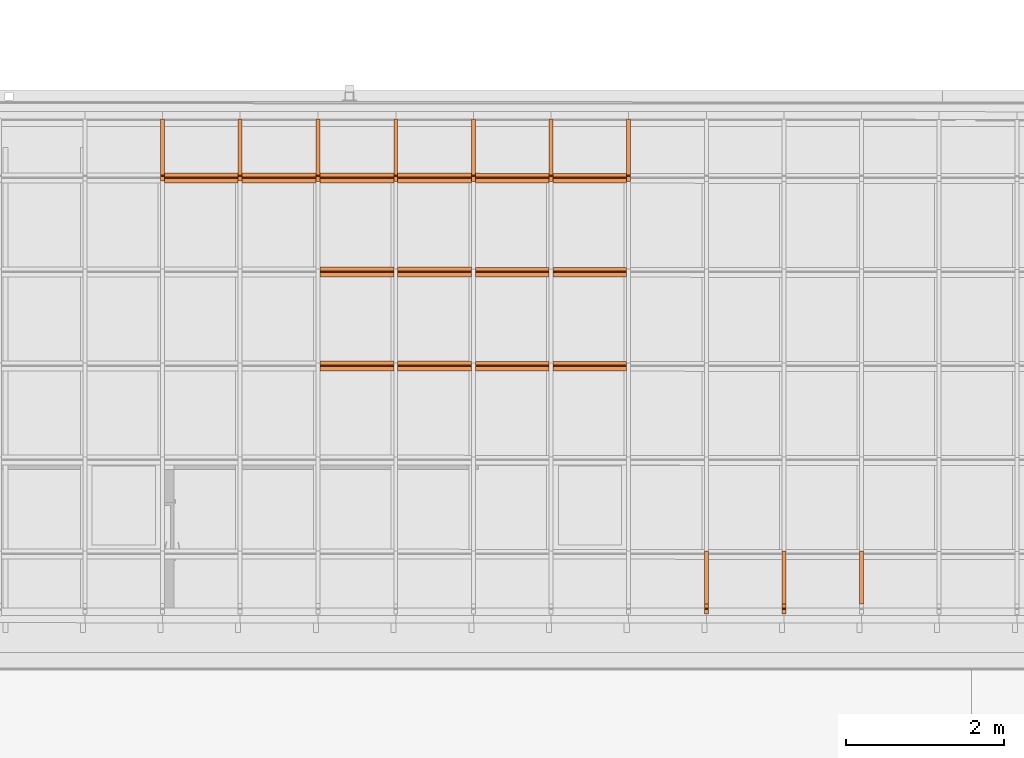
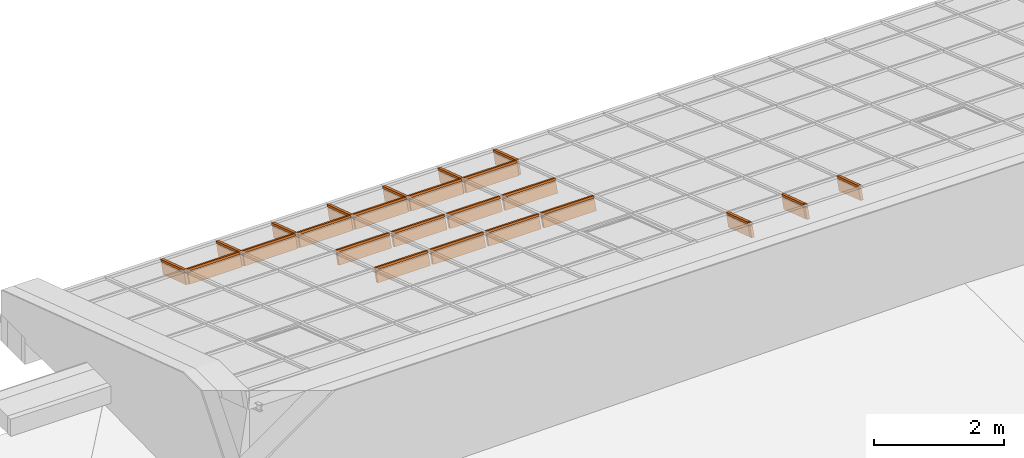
# One storey, part 42 of 47: 26 proxies, 1 element without a shape of its own.
"""IFC2X3 building model written with IfcOpenShell, lengths in millimetres."""

import ifcopenshell
import ifcopenshell.guid

model = None  # the IFC model being written
_history = None  # IfcOwnerHistory: only IFC2X3 demands one
_inside = {}  # id of a spatial element -> (the spatial element, [elements in it])
_under = {}  # id of a project, library or spatial element -> (it, [spatial elements below it])
_declared = {}  # id of a project -> (the project, [libraries it declares])
_typed = {}  # id of a type object -> (the type object, [elements of that type])
_made_of = {}  # id of a material, layer set ... -> (it, [elements and type objects made of it])


def new_model(schema):
    """Start an empty IFC model of exactly this schema.

    Asked for "IFC4X3", IfcOpenShell would pick the latest addendum, in which some entities
    have other attributes; the version numbers below select the first issue.
    IFC2X3 requires an IfcOwnerHistory on every rooted entity: one is made here for all.
    """
    global model, _history
    if schema == "IFC4X3":
        model = ifcopenshell.file(schema_version=(4, 3, 0, 0))
    else:
        model = ifcopenshell.file(schema=schema)
    _inside.clear()
    _under.clear()
    _declared.clear()
    _typed.clear()
    _made_of.clear()
    _history = None
    if model.schema == "IFC2X3":
        org = make("IfcOrganization", Name="unknown")
        user = make(
            "IfcPersonAndOrganization",
            ThePerson=make("IfcPerson", FamilyName="unknown"),
            TheOrganization=org,
        )
        app = make(
            "IfcApplication",
            ApplicationDeveloper=org,
            Version="unknown",
            ApplicationFullName="unknown",
            ApplicationIdentifier="unknown",
        )
        _history = make(
            "IfcOwnerHistory",
            OwningUser=user,
            OwningApplication=app,
            ChangeAction="ADDED",
            CreationDate=0,
        )
    return model


def make(cls, **values):
    """One entity of the class cls with the attributes given. An attribute that is None is left unset."""
    return model.create_entity(
        cls, **{name: value for name, value in values.items() if value is not None}
    )


def entity(cls, *values):
    """Any entity or typed value of the class cls, its attributes in the order of the schema. None: left unset."""
    e = model.create_entity(cls)
    for i, value in enumerate(values):
        if value is not None:
            e[i] = value
    return e


def rooted(cls, **values):
    """An entity with a GlobalId (a new one), such as an element, a storey or a relation."""
    return make(cls, GlobalId=ifcopenshell.guid.new(), OwnerHistory=_history, **values)


def si_unit(unit_type, name, prefix=None):
    """IfcSIUnit, for example si_unit("LENGTHUNIT", "METRE", prefix="MILLI")."""
    return make("IfcSIUnit", UnitType=unit_type, Prefix=prefix, Name=name)


def converted_unit(unit_type, name, factor, base, dimensions=None, offset=None):
    """IfcConversionBasedUnit, such as the inch: factor (a typed value) times the base unit."""
    return make(
        "IfcConversionBasedUnit"
        if offset is None
        else "IfcConversionBasedUnitWithOffset",
        ConversionOffset=offset,
        Dimensions=None
        if dimensions is None
        else entity("IfcDimensionalExponents", *dimensions),
        UnitType=unit_type,
        Name=name,
        ConversionFactor=make(
            "IfcMeasureWithUnit", ValueComponent=factor, UnitComponent=base
        ),
    )


def derived_unit(unit_type, elements):
    """IfcDerivedUnit: a product of units, each with its exponent."""
    return make(
        "IfcDerivedUnit",
        Elements=[
            make("IfcDerivedUnitElement", Unit=unit, Exponent=power)
            for unit, power in elements
        ],
        UnitType=unit_type,
    )


def money_unit(currency):
    """IfcMonetaryUnit."""
    return make("IfcMonetaryUnit", Currency=currency)


def assignment(units):
    """IfcUnitAssignment: the units of a project."""
    return None if units is None else make("IfcUnitAssignment", Units=units)


def point(xyz):
    """IfcCartesianPoint."""
    return None if xyz is None else make("IfcCartesianPoint", Coordinates=xyz)


def direction(xyz):
    """IfcDirection."""
    return None if xyz is None else make("IfcDirection", DirectionRatios=xyz)


def frame(location, z_axis=None, x_axis=None):
    """IfcAxis2Placement3D, a coordinate frame: its origin and axes. An axis left out is left unset."""
    return make(
        "IfcAxis2Placement3D",
        Location=point(location),
        Axis=direction(z_axis),
        RefDirection=direction(x_axis),
    )


def origin_with_axes():
    """The frame at (0, 0, 0) with the z axis (0, 0, 1) and the x axis (1, 0, 0) written out."""
    return frame((0.0, 0.0, 0.0), z_axis=(0.0, 0.0, 1.0), x_axis=(1.0, 0.0, 0.0))


def place(relative_to, where):
    """IfcLocalPlacement: puts the frame where relative to a parent placement (None: the world)."""
    return make(
        "IfcLocalPlacement", PlacementRelTo=relative_to, RelativePlacement=where
    )


def context(
    kind, dimensions, precision=None, world=None, true_north=None, identifier=None
):
    """IfcGeometricRepresentationContext, for example the 3D "Model" context."""
    return make(
        "IfcGeometricRepresentationContext",
        ContextIdentifier=identifier,
        ContextType=kind,
        CoordinateSpaceDimension=dimensions,
        Precision=precision,
        WorldCoordinateSystem=world,
        TrueNorth=true_north,
    )


def subcontext(parent, identifier, kind, view, scale=None):
    """IfcGeometricRepresentationSubContext, for example "Body" below "Model"."""
    return make(
        "IfcGeometricRepresentationSubContext",
        ContextIdentifier=identifier,
        ContextType=kind,
        ParentContext=parent,
        TargetScale=scale,
        TargetView=view,
    )


def project(units=None, contexts=None):
    """IfcProject with its units and contexts."""
    return rooted(
        "IfcProject",
        Name="project",
        RepresentationContexts=contexts,
        UnitsInContext=assignment(units),
    )


def spatial(cls, under=None, at=None, **own):
    """A site, building, storey or space (cls), placed at a placement, below another one or the project."""
    s = rooted(cls, ObjectPlacement=at, **own)
    if under is not None:
        _under.setdefault(under.id(), (under, []))[1].append(s)
    return s


def polyline(points):
    """IfcPolyline through the points."""
    return make("IfcPolyline", Points=[point(p) for p in points])


def outline(outer, holes=None, kind="AREA"):
    """IfcArbitraryClosedProfileDef: a profile drawn as a closed curve; with holes, ...WithVoids."""
    if holes is None:
        return make("IfcArbitraryClosedProfileDef", ProfileType=kind, OuterCurve=outer)
    return make(
        "IfcArbitraryProfileDefWithVoids",
        ProfileType=kind,
        OuterCurve=outer,
        InnerCurves=holes,
    )


def extrude(swept, where, along, depth):
    """IfcExtrudedAreaSolid: the profile swept, set in the frame where, extruded along a direction by depth."""
    return make(
        "IfcExtrudedAreaSolid",
        SweptArea=swept,
        Position=where,
        ExtrudedDirection=direction(along),
        Depth=depth,
    )


def shape(context_of_items, identifier, shape_type, items):
    """IfcShapeRepresentation: the items that make up one representation, for example the "Body"."""
    return make(
        "IfcShapeRepresentation",
        ContextOfItems=context_of_items,
        RepresentationIdentifier=identifier,
        RepresentationType=shape_type,
        Items=items,
    )


def material(Name=None, Category=None):
    """IfcMaterial."""
    return make("IfcMaterial", Name=Name, Category=Category)


def material_list(materials):
    """IfcMaterialList."""
    return make("IfcMaterialList", Materials=materials)


def made_of(thing, what):
    """Note that an element or type object is made of a material, layer set ...; save() writes the relation."""
    if what is not None:
        _made_of.setdefault(what.id(), (what, []))[1].append(thing)
    return thing


def type_object(cls, material=None, **own):
    """A type object (cls), such as IfcWallType, which elements share."""
    return made_of(rooted(cls, **own), material)


def element(
    cls,
    number,
    at=None,
    inside=None,
    cuts=None,
    type_object=None,
    material=None,
    context=None,
    identifier="Body",
    shape_type=None,
    held_by="IfcProductDefinitionShape",
    body=None,
    shapes=None,
    **own,
):
    """One element of the class cls, such as IfcWall. Its Tag is "e" and its number.

    at: its placement. inside: the storey or other place that contains it. cuts: it is an
    opening in that element (IfcRelVoidsElement). A single representation is given by context,
    identifier, shape_type and body (its items); several are given by shapes. held_by: the class
    of the entity that holds the representations. save() writes the other relations.
    """
    e = rooted(cls, Tag="e%d" % number, ObjectPlacement=at, **own)
    if body is not None:
        shapes = [shape(context, identifier, shape_type, body)]
    if shapes is not None:
        e.Representation = make(held_by, Representations=shapes)
    if inside is not None:
        _inside.setdefault(inside.id(), (inside, []))[1].append(e)
    if cuts is not None:
        rooted(
            "IfcRelVoidsElement", RelatingBuildingElement=cuts, RelatedOpeningElement=e
        )
    if type_object is not None:
        _typed.setdefault(type_object.id(), (type_object, []))[1].append(e)
    return made_of(e, material)


def aggregate(whole, parts):
    """IfcRelAggregates: a whole, such as a stair, and the parts it consists of."""
    return rooted("IfcRelAggregates", RelatingObject=whole, RelatedObjects=parts)


def save(model, path):
    """Write the relations noted so far, then the file.

    IfcRelAggregates (storeys below a building ...), IfcRelContainedInSpatialStructure (elements
    in a storey), IfcRelDefinesByType, IfcRelAssociatesMaterial and IfcRelDeclares: one each for
    every whole, place, type object, material and project.
    """
    for whole, parts in _under.values():
        aggregate(whole, parts)
    for where, things in _inside.values():
        rooted(
            "IfcRelContainedInSpatialStructure",
            RelatedElements=things,
            RelatingStructure=where,
        )
    for kind, things in _typed.values():
        rooted("IfcRelDefinesByType", RelatedObjects=things, RelatingType=kind)
    for what, things in _made_of.values():
        rooted("IfcRelAssociatesMaterial", RelatedObjects=things, RelatingMaterial=what)
    for by, libraries in _declared.values():
        rooted("IfcRelDeclares", RelatingContext=by, RelatedDefinitions=libraries)
    model.write(path)


model = new_model("IFC2X3")

# Units and contexts
model_context = context("Model", 3, precision=1e-05, world=origin_with_axes(), true_north=direction((0.0, 1.0)))
body_context = subcontext(model_context, "Body", "Model", "MODEL_VIEW")
ifc_project = project(units=[si_unit("LENGTHUNIT", "METRE", prefix="MILLI"), si_unit("AREAUNIT", "SQUARE_METRE"), si_unit("VOLUMEUNIT", "CUBIC_METRE"), converted_unit("PLANEANGLEUNIT", "DEGREE", entity("IfcPlaneAngleMeasure", 0.0174532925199), si_unit("PLANEANGLEUNIT", "RADIAN"), dimensions=[0, 0, 0, 0, 0, 0, 0]), si_unit("SOLIDANGLEUNIT", "STERADIAN"), money_unit("EUR"), converted_unit("TIMEUNIT", "Year", entity("IfcTimeMeasure", 31556926.0), si_unit("TIMEUNIT", "SECOND"), dimensions=[0, 0, 1, 0, 0, 0, 0]), si_unit("MASSUNIT", "GRAM", prefix="KILO"), si_unit("THERMODYNAMICTEMPERATUREUNIT", "DEGREE_CELSIUS"), si_unit("LUMINOUSINTENSITYUNIT", "LUMEN"), si_unit("ENERGYUNIT", "JOULE", prefix="MEGA"), derived_unit("THERMALCONDUCTANCEUNIT", [(si_unit("POWERUNIT", "WATT"), 1), (si_unit("LENGTHUNIT", "METRE"), -1), (si_unit("THERMODYNAMICTEMPERATUREUNIT", "KELVIN"), -1)]), derived_unit("SPECIFICHEATCAPACITYUNIT", [(si_unit("ENERGYUNIT", "JOULE"), 1), (si_unit("MASSUNIT", "GRAM", prefix="KILO"), -1), (si_unit("THERMODYNAMICTEMPERATUREUNIT", "KELVIN"), -1)]), derived_unit("MASSDENSITYUNIT", [(si_unit("MASSUNIT", "GRAM", prefix="KILO"), 1), (si_unit("VOLUMEUNIT", "CUBIC_METRE"), -1)])], contexts=[model_context])

# Site, building, storey
site_placement = place(None, origin_with_axes())
site = spatial("IfcSite", under=ifc_project, at=site_placement, Name="Site", CompositionType="ELEMENT")
building_placement = place(site_placement, origin_with_axes())
building = spatial("IfcBuilding", under=site, at=building_placement, Name="Building", CompositionType="ELEMENT")
storey_placement = place(building_placement, frame((0.0, 0.0, 6000.0), z_axis=(0.0, 0.0, 1.0), x_axis=(1.0, 0.0, 0.0)))
storey = spatial("IfcBuildingStorey", under=building, at=storey_placement, Name="KATUSEPLAAN", CompositionType="ELEMENT", Elevation=6000.0)

# Curtain wall, proxies
curtain_wall_type = type_object("IfcCurtainWallType", Name="KK-2", PredefinedType="NOTDEFINED")
curtain_wall_placement = place(storey_placement, frame((71638.1505463, 41358.6055567, 722.550081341), z_axis=(0.0, 0.0, 1.0), x_axis=(1.0, 0.0, 0.0)))
curtain_wall = element("IfcCurtainWall", 1, at=curtain_wall_placement, inside=storey, type_object=curtain_wall_type, Name="Talveaja klaaskatus")
ifc_material = material(Name="Alumiinium (1)")
ifc_material_list = material_list([ifc_material, ifc_material])
building_element_proxy_type_1 = type_object("IfcBuildingElementProxyType", Name="Frame-Mll-195", PredefinedType="NOTDEFINED")
proxy_1_placement = place(curtain_wall_placement, frame((-5398.99771195, 5983.34369979, 18.8832315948), z_axis=(0.0, -0.950019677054, 0.312190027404), x_axis=(-0.999999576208, 0.000287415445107, 0.00087462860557)))
proxy_1 = element("IfcBuildingElementProxy", 2, at=proxy_1_placement, type_object=building_element_proxy_type_1, material=ifc_material_list, Name="Alumiinium (1);  Objekti nimi: Frame 22", context=body_context, shape_type="SweptSolid", body=[
    extrude(outline(polyline([(25.0091958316, 9.97697969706), (25.1841179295, 199.976899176), (-24.8158608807, 200.022931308), (-24.9907829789, 10.0230118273), (25.0091958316, 9.97697969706)])), frame((1.13686837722e-10, 4.54747350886e-10, 49.9999999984), z_axis=(0.0, 0.0, 1.0), x_axis=(0.999999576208, 0.00092064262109, 0.0)), (0.0, 0.0, 1.0), 744.739022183),
    extrude(outline(polyline([(-25.0091958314, -9.9769796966), (-25.0460215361, -49.9769627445), (24.9539572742, -50.0229948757), (24.9907829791, -10.0230118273), (-25.0091958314, -9.9769796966)])), frame((1.13686837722e-10, 0.0, 49.9999999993), z_axis=(0.0, 0.0, 1.0), x_axis=(0.999999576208, 0.00092064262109, 0.0)), (0.0, 0.0, 1.0), 744.739022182),
])
building_element_proxy_type_2 = type_object("IfcBuildingElementProxyType", Name="Frame-Mll-196", PredefinedType="NOTDEFINED")
proxy_2_placement = place(curtain_wall_placement, frame((-4418.99812727, 5983.06203266, 18.0260955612), z_axis=(0.0, -0.950019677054, 0.312190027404), x_axis=(-0.999999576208, 0.000287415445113, 0.000874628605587)))
proxy_2 = element("IfcBuildingElementProxy", 3, at=proxy_2_placement, type_object=building_element_proxy_type_2, material=ifc_material_list, Name="Alumiinium (1);  Objekti nimi: Frame 22", context=body_context, shape_type="SweptSolid", body=[
    extrude(outline(polyline([(25.0091958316, 9.97697969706), (25.1841179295, 199.976899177), (-24.8158608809, 200.022931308), (-24.9907829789, 10.0230118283), (25.0091958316, 9.97697969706)])), frame((1.13686837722e-10, 0.0, 50.0000000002), z_axis=(0.0, 0.0, 1.0), x_axis=(0.999999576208, 0.000920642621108, 0.0)), (0.0, 0.0, 1.0), 744.739022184),
    extrude(outline(polyline([(-25.0091958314, -9.97697969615), (-25.0460215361, -49.9769627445), (24.9539572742, -50.0229948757), (24.9907829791, -10.0230118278), (-25.0091958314, -9.97697969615)])), frame((1.13686837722e-10, 0.0, 50.0000000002), z_axis=(0.0, 0.0, 1.0), x_axis=(0.999999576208, 0.000920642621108, 0.0)), (0.0, 0.0, 1.0), 744.739022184),
])
building_element_proxy_type_3 = type_object("IfcBuildingElementProxyType", Name="Frame-Mll-197", PredefinedType="NOTDEFINED")
proxy_3_placement = place(curtain_wall_placement, frame((-3435.99854385, 5982.77950327, 17.166335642), z_axis=(0.0, -0.950019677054, 0.312190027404), x_axis=(-0.999999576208, 0.000287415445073, 0.000874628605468)))
proxy_3 = element("IfcBuildingElementProxy", 4, at=proxy_3_placement, type_object=building_element_proxy_type_3, material=ifc_material_list, Name="Alumiinium (1);  Objekti nimi: Frame 22", context=body_context, shape_type="SweptSolid", body=[
    extrude(outline(polyline([(25.0091958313, 9.97697969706), (25.1841179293, 199.976899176), (-24.8158608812, 200.022931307), (-24.990782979, 10.0230118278), (25.0091958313, 9.97697969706)])), frame((-1.13686837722e-10, 0.0, 49.9999999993), z_axis=(0.0, 0.0, 1.0), x_axis=(0.999999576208, 0.000920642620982, 0.0)), (0.0, 0.0, 1.0), 744.739022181),
    extrude(outline(polyline([(-25.0091958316, -9.9769796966), (-25.0460215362, -49.976962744), (24.9539572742, -50.0229948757), (24.990782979, -10.0230118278), (-25.0091958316, -9.9769796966)])), frame((-1.13686837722e-10, 4.54747350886e-10, 49.9999999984), z_axis=(0.0, 0.0, 1.0), x_axis=(0.999999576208, 0.000920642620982, 0.0)), (0.0, 0.0, 1.0), 744.739022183),
])
building_element_proxy_type_4 = type_object("IfcBuildingElementProxyType", Name="Frame-Mll-198", PredefinedType="NOTDEFINED")
proxy_4_placement = place(curtain_wall_placement, frame((-2452.99896044, 5982.49697389, 16.3065757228), z_axis=(0.0, -0.950019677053, 0.312190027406), x_axis=(-0.999999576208, 0.000287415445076, 0.000874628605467)))
proxy_4 = element("IfcBuildingElementProxy", 5, at=proxy_4_placement, type_object=building_element_proxy_type_4, material=ifc_material_list, Name="Alumiinium (1);  Objekti nimi: Frame 22", context=body_context, shape_type="SweptSolid", body=[
    extrude(outline(polyline([(25.0091958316, 9.97697969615), (25.1841179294, 199.976899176), (-24.8158608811, 200.022931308), (-24.9907829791, 10.0230118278), (25.0091958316, 9.97697969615)])), frame((0.0, 4.54747350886e-10, 49.9999999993), z_axis=(0.0, 0.0, 1.0), x_axis=(0.999999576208, 0.000920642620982, 0.0)), (0.0, 0.0, 1.0), 744.739022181),
    extrude(outline(polyline([(-25.0091958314, -9.97697969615), (-25.0460215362, -49.9769627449), (24.9539572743, -50.0229948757), (24.990782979, -10.0230118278), (-25.0091958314, -9.97697969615)])), frame((0.0, 0.0, 49.9999999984), z_axis=(0.0, 0.0, 1.0), x_axis=(0.999999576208, 0.000920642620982, 0.0)), (0.0, 0.0, 1.0), 744.739022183),
])
building_element_proxy_type_5 = type_object("IfcBuildingElementProxyType", Name="Frame-Mll-199", PredefinedType="NOTDEFINED")
proxy_5_placement = place(curtain_wall_placement, frame((-1469.99937703, 5982.21444451, 15.4468158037), z_axis=(0.0, -0.950019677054, 0.312190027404), x_axis=(-0.999999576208, 0.000287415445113, 0.000874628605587)))
proxy_5 = element("IfcBuildingElementProxy", 6, at=proxy_5_placement, type_object=building_element_proxy_type_5, material=ifc_material_list, Name="Alumiinium (1);  Objekti nimi: Frame 22", context=body_context, shape_type="SweptSolid", body=[
    extrude(outline(polyline([(25.0091958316, 9.97697969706), (25.1841179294, 199.976899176), (-24.8158608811, 200.022931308), (-24.9907829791, 10.0230118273), (25.0091958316, 9.97697969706)])), frame((0.0, 4.54747350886e-10, 50.0000000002), z_axis=(0.0, 0.0, 1.0), x_axis=(0.999999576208, 0.000920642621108, 0.0)), (0.0, 0.0, 1.0), 744.739022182),
    extrude(outline(polyline([(-25.0091958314, -9.9769796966), (-25.0460215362, -49.9769627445), (24.9539572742, -50.0229948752), (24.990782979, -10.0230118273), (-25.0091958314, -9.9769796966)])), frame((0.0, 0.0, 49.9999999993), z_axis=(0.0, 0.0, 1.0), x_axis=(0.999999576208, 0.000920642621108, 0.0)), (0.0, 0.0, 1.0), 744.739022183),
])
building_element_proxy_type_6 = type_object("IfcBuildingElementProxyType", Name="Frame-Mll-200", PredefinedType="NOTDEFINED")
proxy_6_placement = place(curtain_wall_placement, frame((-489.999792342, 5981.93277737, 14.5896797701), z_axis=(0.0, -0.950019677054, 0.312190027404), x_axis=(-0.999999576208, 0.000287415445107, 0.00087462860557)))
proxy_6 = element("IfcBuildingElementProxy", 7, at=proxy_6_placement, type_object=building_element_proxy_type_6, material=ifc_material_list, Name="Alumiinium (1);  Objekti nimi: Frame 22", context=body_context, shape_type="SweptSolid", body=[
    extrude(outline(polyline([(25.0091958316, 9.9769796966), (25.1841179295, 199.976899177), (-24.8158608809, 200.022931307), (-24.990782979, 10.0230118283), (25.0091958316, 9.9769796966)])), frame((1.13686837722e-10, -4.54747350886e-10, 49.9999999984), z_axis=(0.0, 0.0, 1.0), x_axis=(0.999999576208, 0.00092064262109, 0.0)), (0.0, 0.0, 1.0), 744.739022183),
    extrude(outline(polyline([(-25.0091958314, -9.97697969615), (-25.0460215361, -49.9769627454), (24.9539572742, -50.0229948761), (24.990782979, -10.0230118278), (-25.0091958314, -9.97697969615)])), frame((1.13686837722e-10, 0.0, 49.9999999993), z_axis=(0.0, 0.0, 1.0), x_axis=(0.999999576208, 0.00092064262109, 0.0)), (0.0, 0.0, 1.0), 744.739022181),
])
building_element_proxy_type_7 = type_object("IfcBuildingElementProxyType", Name="Frame-Mll-201", PredefinedType="NOTDEFINED")
proxy_7_placement = place(curtain_wall_placement, frame((489.999792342, 5981.65111024, 13.7325437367), z_axis=(0.0, -0.950019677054, 0.312190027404), x_axis=(-0.999999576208, 0.000287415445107, 0.00087462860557)))
proxy_7 = element("IfcBuildingElementProxy", 8, at=proxy_7_placement, type_object=building_element_proxy_type_7, material=ifc_material_list, Name="Alumiinium (1);  Objekti nimi: Frame 22", context=body_context, shape_type="SweptSolid", body=[
    extrude(outline(polyline([(25.0091958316, 9.97697969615), (25.1841179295, 199.976899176), (-24.8158608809, 200.022931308), (-24.9907829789, 10.0230118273), (25.0091958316, 9.97697969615)])), frame((1.13686837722e-10, 0.0, 50.0000000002), z_axis=(0.0, 0.0, 1.0), x_axis=(0.999999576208, 0.00092064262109, 0.0)), (0.0, 0.0, 1.0), 744.739022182),
    extrude(outline(polyline([(-25.0091958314, -9.9769796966), (-25.046021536, -49.9769627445), (24.9539572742, -50.0229948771), (24.9907829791, -10.0230118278), (-25.0091958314, -9.9769796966)])), frame((1.13686837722e-10, 0.0, 49.9999999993), z_axis=(0.0, 0.0, 1.0), x_axis=(0.999999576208, 0.00092064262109, 0.0)), (0.0, 0.0, 1.0), 744.739022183),
])
building_element_proxy_type_8 = type_object("IfcBuildingElementProxyType", Name="Frame-Trs-173", PredefinedType="NOTDEFINED")
proxy_8_placement = place(curtain_wall_placement, frame((-5398.99771195, 5228.3259906, 266.992828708), z_axis=(0.999999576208, -0.000287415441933, -0.000874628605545), x_axis=(0.0, -0.950019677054, 0.312190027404)))
proxy_8 = element("IfcBuildingElementProxy", 9, at=proxy_8_placement, type_object=building_element_proxy_type_8, material=ifc_material_list, Name="Alumiinium (1);  Objekti nimi: Frame 22", context=body_context, shape_type="SweptSolid", body=[
    extrude(outline(polyline([(26.8723924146, 1.69544270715), (86.1885203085, 182.199173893), (38.6875384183, 197.808681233), (-20.6285894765, 17.3049500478), (26.8723924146, 1.69544270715)])), frame((9.09494701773e-10, 0.0, 24.9999999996), z_axis=(0.0, 0.0, 1.0), x_axis=(0.950019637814, 0.312190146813, 0.0)), (0.0, 0.0, 1.0), 930.0),
    extrude(outline(polyline([(-26.8723924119, -1.695442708), (-39.3599982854, -39.6962282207), (8.1409836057, -55.305735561), (20.6285894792, -17.3049500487), (-26.8723924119, -1.695442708)])), frame((9.09494701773e-10, 0.0, 24.9999999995), z_axis=(0.0, 0.0, 1.0), x_axis=(0.950019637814, 0.312190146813, 0.0)), (0.0, 0.0, 1.0), 930.000000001),
])
building_element_proxy_type_9 = type_object("IfcBuildingElementProxyType", Name="Frame-Trs-174", PredefinedType="NOTDEFINED")
proxy_9_placement = place(curtain_wall_placement, frame((-4418.99812727, 5228.04432346, 266.135692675), z_axis=(0.999999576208, -0.000287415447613, -0.000874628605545), x_axis=(0.0, -0.950019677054, 0.312190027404)))
proxy_9 = element("IfcBuildingElementProxy", 10, at=proxy_9_placement, type_object=building_element_proxy_type_9, material=ifc_material_list, Name="Alumiinium (1);  Objekti nimi: Frame 22", context=body_context, shape_type="SweptSolid", body=[
    extrude(outline(polyline([(26.8723924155, 1.69544270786), (86.1885203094, 182.199173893), (38.6875384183, 197.808681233), (-20.6285894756, 17.3049500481), (26.8723924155, 1.69544270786)])), frame((9.09494701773e-10, 0.0, 24.9999999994), z_axis=(0.0, 0.0, 1.0), x_axis=(0.950019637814, 0.312190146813, 0.0)), (0.0, 0.0, 1.0), 933.0),
    extrude(outline(polyline([(-26.8723924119, -1.695442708), (-39.3599982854, -39.696228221), (8.1409836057, -55.3057355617), (20.6285894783, -17.3049500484), (-26.8723924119, -1.695442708)])), frame((9.09494701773e-10, 0.0, 24.9999999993), z_axis=(0.0, 0.0, 1.0), x_axis=(0.950019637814, 0.312190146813, 0.0)), (0.0, 0.0, 1.0), 933.000000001),
])
building_element_proxy_type_10 = type_object("IfcBuildingElementProxyType", Name="Frame-Trs-175", PredefinedType="NOTDEFINED")
proxy_10_placement = place(curtain_wall_placement, frame((-3435.99854385, 5227.76179408, 265.275932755), z_axis=(0.999999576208, -0.000287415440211, -0.000874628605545), x_axis=(0.0, -0.950019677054, 0.312190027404)))
proxy_10 = element("IfcBuildingElementProxy", 11, at=proxy_10_placement, type_object=building_element_proxy_type_10, material=ifc_material_list, Name="Alumiinium (1);  Objekti nimi: Frame 22", context=body_context, shape_type="SweptSolid", body=[
    extrude(outline(polyline([(26.8723924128, 1.695442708), (86.1885203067, 182.199173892), (38.6875384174, 197.808681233), (-20.6285894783, 17.3049500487), (26.8723924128, 1.695442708)])), frame((-1.81898940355e-09, 0.0, 24.9999999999), z_axis=(0.0, 0.0, 1.0), x_axis=(0.950019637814, 0.312190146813, 0.0)), (0.0, 0.0, 1.0), 933.0),
    extrude(outline(polyline([(-26.8723924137, -1.69544270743), (-39.3599982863, -39.69622822), (8.14098360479, -55.3057355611), (20.6285894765, -17.3049500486), (-26.8723924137, -1.69544270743)])), frame((-1.81898940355e-09, 0.0, 24.9999999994), z_axis=(0.0, 0.0, 1.0), x_axis=(0.950019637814, 0.312190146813, 0.0)), (0.0, 0.0, 1.0), 933.000000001),
])
building_element_proxy_type_11 = type_object("IfcBuildingElementProxyType", Name="Frame-Trs-176", PredefinedType="NOTDEFINED")
proxy_11_placement = place(curtain_wall_placement, frame((-2452.99896044, 5227.4792647, 264.416172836), z_axis=(0.999999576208, -0.000287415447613, -0.000874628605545), x_axis=(0.0, -0.950019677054, 0.312190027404)))
proxy_11 = element("IfcBuildingElementProxy", 12, at=proxy_11_placement, type_object=building_element_proxy_type_11, material=ifc_material_list, Name="Alumiinium (1);  Objekti nimi: Frame 22", context=body_context, shape_type="SweptSolid", body=[
    extrude(outline(polyline([(26.8723924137, 1.69544270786), (86.1885203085, 182.199173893), (38.6875384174, 197.808681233), (-20.6285894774, 17.3049500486), (26.8723924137, 1.69544270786)])), frame((9.09494701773e-10, 0.0, 24.9999999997), z_axis=(0.0, 0.0, 1.0), x_axis=(0.950019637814, 0.312190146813, 0.0)), (0.0, 0.0, 1.0), 933.0),
    extrude(outline(polyline([(-26.8723924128, -1.69544270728), (-39.3599982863, -39.6962282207), (8.1409836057, -55.305735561), (20.6285894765, -17.3049500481), (-26.8723924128, -1.69544270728)])), frame((9.09494701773e-10, 0.0, 24.9999999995), z_axis=(0.0, 0.0, 1.0), x_axis=(0.950019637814, 0.312190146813, 0.0)), (0.0, 0.0, 1.0), 933.000000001),
])
building_element_proxy_type_12 = type_object("IfcBuildingElementProxyType", Name="Frame-Trs-177", PredefinedType="NOTDEFINED")
proxy_12_placement = place(curtain_wall_placement, frame((-1469.99937703, 5227.19673532, 263.556412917), z_axis=(0.999999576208, -0.000287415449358, -0.000874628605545), x_axis=(0.0, -0.950019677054, 0.312190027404)))
proxy_12 = element("IfcBuildingElementProxy", 13, at=proxy_12_placement, type_object=building_element_proxy_type_12, material=ifc_material_list, Name="Alumiinium (1);  Objekti nimi: Frame 22", context=body_context, shape_type="SweptSolid", body=[
    extrude(outline(polyline([(26.8723924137, 1.69544270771), (86.1885203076, 182.199173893), (38.6875384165, 197.808681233), (-20.6285894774, 17.3049500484), (26.8723924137, 1.69544270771)])), frame((9.09494701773e-10, 0.0, 24.9999999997), z_axis=(0.0, 0.0, 1.0), x_axis=(0.950019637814, 0.312190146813, 0.0)), (0.0, 0.0, 1.0), 930.0),
    extrude(outline(polyline([(-26.8723924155, -1.69544270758), (-39.3599982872, -39.6962282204), (8.14098360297, -55.3057355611), (20.6285894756, -17.3049500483), (-26.8723924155, -1.69544270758)])), frame((9.09494701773e-10, 0.0, 24.9999999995), z_axis=(0.0, 0.0, 1.0), x_axis=(0.950019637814, 0.312190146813, 0.0)), (0.0, 0.0, 1.0), 930.000000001),
])
building_element_proxy_type_13 = type_object("IfcBuildingElementProxyType", Name="Frame-Trs-178", PredefinedType="NOTDEFINED")
proxy_13_placement = place(curtain_wall_placement, frame((-489.999792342, 5226.91506818, 262.699276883), z_axis=(0.999999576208, -0.000287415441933, -0.000874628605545), x_axis=(0.0, -0.950019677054, 0.312190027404)))
proxy_13 = element("IfcBuildingElementProxy", 14, at=proxy_13_placement, type_object=building_element_proxy_type_13, material=ifc_material_list, Name="Alumiinium (1);  Objekti nimi: Frame 22", context=body_context, shape_type="SweptSolid", body=[
    extrude(outline(polyline([(26.8723924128, 1.69544270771), (86.1885203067, 182.199173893), (38.6875384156, 197.808681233), (-20.6285894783, 17.304950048), (26.8723924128, 1.69544270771)])), frame((0.0, 0.0, 24.9999999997), z_axis=(0.0, 0.0, 1.0), x_axis=(0.950019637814, 0.312190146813, 0.0)), (0.0, 0.0, 1.0), 930.0),
    extrude(outline(polyline([(-26.8723924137, -1.69544270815), (-39.3599982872, -39.6962282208), (8.14098360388, -55.3057355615), (20.6285894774, -17.3049500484), (-26.8723924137, -1.69544270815)])), frame((0.0, 0.0, 24.9999999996), z_axis=(0.0, 0.0, 1.0), x_axis=(0.950019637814, 0.312190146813, 0.0)), (0.0, 0.0, 1.0), 930.0),
])
building_element_proxy_type_14 = type_object("IfcBuildingElementProxyType", Name="Frame-Trs-199", PredefinedType="NOTDEFINED")
proxy_14_placement = place(curtain_wall_placement, frame((-3435.99854385, 4040.23719776, 655.51346701), z_axis=(0.999999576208, -0.000287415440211, -0.000874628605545), x_axis=(0.0, -0.950019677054, 0.312190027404)))
proxy_14 = element("IfcBuildingElementProxy", 15, at=proxy_14_placement, type_object=building_element_proxy_type_14, material=ifc_material_list, Name="Alumiinium (1);  Objekti nimi: Frame 22", context=body_context, shape_type="SweptSolid", body=[
    extrude(outline(polyline([(26.8723924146, 1.69544270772), (86.1885203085, 182.199173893), (38.6875384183, 197.808681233), (-20.6285894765, 17.3049500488), (26.8723924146, 1.69544270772)])), frame((-9.09494701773e-10, 0.0, 24.9999999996), z_axis=(0.0, 0.0, 1.0), x_axis=(0.950019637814, 0.312190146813, 0.0)), (0.0, 0.0, 1.0), 933.0),
    extrude(outline(polyline([(-26.8723924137, -1.69544270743), (-39.3599982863, -39.69622822), (8.14098360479, -55.3057355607), (20.6285894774, -17.3049500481), (-26.8723924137, -1.69544270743)])), frame((-9.09494701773e-10, 0.0, 24.9999999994), z_axis=(0.0, 0.0, 1.0), x_axis=(0.950019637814, 0.312190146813, 0.0)), (0.0, 0.0, 1.0), 933.000000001),
])
building_element_proxy_type_15 = type_object("IfcBuildingElementProxyType", Name="Frame-Trs-262", PredefinedType="NOTDEFINED")
proxy_15_placement = place(curtain_wall_placement, frame((-3435.99854385, 2852.71260145, 1045.75100126), z_axis=(0.999999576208, -0.000287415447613, -0.000874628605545), x_axis=(0.0, -0.950019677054, 0.312190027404)))
proxy_15 = element("IfcBuildingElementProxy", 16, at=proxy_15_placement, type_object=building_element_proxy_type_15, material=ifc_material_list, Name="Alumiinium (1);  Objekti nimi: Frame 22", context=body_context, shape_type="SweptSolid", body=[
    extrude(outline(polyline([(26.8723924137, 1.69544270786), (86.1885203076, 182.199173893), (38.6875384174, 197.808681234), (-20.6285894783, 17.3049500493), (26.8723924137, 1.69544270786)])), frame((9.09494701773e-10, 0.0, 25.0000000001), z_axis=(0.0, 0.0, 1.0), x_axis=(0.950019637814, 0.312190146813, 0.0)), (0.0, 0.0, 1.0), 933.0),
    extrude(outline(polyline([(-26.8723924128, -1.69544270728), (-39.3599982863, -39.69622822), (8.14098360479, -55.3057355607), (20.6285894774, -17.3049500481), (-26.8723924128, -1.69544270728)])), frame((9.09494701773e-10, 0.0, 24.9999999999), z_axis=(0.0, 0.0, 1.0), x_axis=(0.950019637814, 0.312190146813, 0.0)), (0.0, 0.0, 1.0), 933.0),
])
building_element_proxy_type_16 = type_object("IfcBuildingElementProxyType", Name="Frame-Trs-200", PredefinedType="NOTDEFINED")
proxy_16_placement = place(curtain_wall_placement, frame((-2452.99896044, 4039.95466838, 654.653707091), z_axis=(0.999999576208, -0.000287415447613, -0.000874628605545), x_axis=(0.0, -0.950019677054, 0.312190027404)))
proxy_16 = element("IfcBuildingElementProxy", 17, at=proxy_16_placement, type_object=building_element_proxy_type_16, material=ifc_material_list, Name="Alumiinium (1);  Objekti nimi: Frame 22", context=body_context, shape_type="SweptSolid", body=[
    extrude(outline(polyline([(26.8723924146, 1.69544270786), (86.1885203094, 182.199173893), (38.6875384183, 197.808681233), (-20.6285894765, 17.3049500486), (26.8723924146, 1.69544270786)])), frame((9.09494701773e-10, 0.0, 24.9999999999), z_axis=(0.0, 0.0, 1.0), x_axis=(0.950019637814, 0.312190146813, 0.0)), (0.0, 0.0, 1.0), 933.0),
    extrude(outline(polyline([(-26.8723924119, -1.695442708), (-39.3599982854, -39.696228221), (8.14098360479, -55.3057355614), (20.6285894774, -17.3049500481), (-26.8723924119, -1.695442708)])), frame((9.09494701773e-10, 0.0, 24.9999999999), z_axis=(0.0, 0.0, 1.0), x_axis=(0.950019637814, 0.312190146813, 0.0)), (0.0, 0.0, 1.0), 933.0),
])
building_element_proxy_type_17 = type_object("IfcBuildingElementProxyType", Name="Frame-Trs-261", PredefinedType="NOTDEFINED")
proxy_17_placement = place(curtain_wall_placement, frame((-2452.99896044, 2852.43007206, 1044.89124135), z_axis=(0.999999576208, -0.000287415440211, -0.000874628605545), x_axis=(0.0, -0.950019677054, 0.312190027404)))
proxy_17 = element("IfcBuildingElementProxy", 18, at=proxy_17_placement, type_object=building_element_proxy_type_17, material=ifc_material_list, Name="Alumiinium (1);  Objekti nimi: Frame 22", context=body_context, shape_type="SweptSolid", body=[
    extrude(outline(polyline([(26.8723924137, 1.69544270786), (86.1885203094, 182.199173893), (38.6875384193, 197.808681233), (-20.6285894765, 17.3049500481), (26.8723924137, 1.69544270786)])), frame((0.0, -4.54747350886e-10, 24.9999999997), z_axis=(0.0, 0.0, 1.0), x_axis=(0.950019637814, 0.312190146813, 0.0)), (0.0, 0.0, 1.0), 933.0),
    extrude(outline(polyline([(-26.8723924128, -1.69544270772), (-39.3599982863, -39.6962282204), (8.1409836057, -55.3057355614), (20.6285894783, -17.304950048), (-26.8723924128, -1.69544270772)])), frame((0.0, -4.54747350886e-10, 24.9999999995), z_axis=(0.0, 0.0, 1.0), x_axis=(0.950019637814, 0.312190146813, 0.0)), (0.0, 0.0, 1.0), 933.000000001),
])
building_element_proxy_type_18 = type_object("IfcBuildingElementProxyType", Name="Frame-Trs-201", PredefinedType="NOTDEFINED")
proxy_18_placement = place(curtain_wall_placement, frame((-1469.99937703, 4039.672139, 653.793947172), z_axis=(0.999999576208, -0.000287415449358, -0.000874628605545), x_axis=(0.0, -0.950019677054, 0.312190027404)))
proxy_18 = element("IfcBuildingElementProxy", 19, at=proxy_18_placement, type_object=building_element_proxy_type_18, material=ifc_material_list, Name="Alumiinium (1);  Objekti nimi: Frame 22", context=body_context, shape_type="SweptSolid", body=[
    extrude(outline(polyline([(26.8723924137, 1.695442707), (86.1885203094, 182.199173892), (38.6875384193, 197.808681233), (-20.6285894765, 17.3049500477), (26.8723924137, 1.695442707)])), frame((9.09494701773e-10, 0.0, 25.0), z_axis=(0.0, 0.0, 1.0), x_axis=(0.950019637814, 0.312190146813, 0.0)), (0.0, 0.0, 1.0), 930.0),
    extrude(outline(polyline([(-26.8723924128, -1.69544270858), (-39.3599982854, -39.696228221), (8.1409836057, -55.3057355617), (20.6285894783, -17.3049500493), (-26.8723924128, -1.69544270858)])), frame((9.09494701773e-10, 0.0, 24.9999999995), z_axis=(0.0, 0.0, 1.0), x_axis=(0.950019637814, 0.312190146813, 0.0)), (0.0, 0.0, 1.0), 930.000000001),
])
building_element_proxy_type_19 = type_object("IfcBuildingElementProxyType", Name="Frame-Trs-260", PredefinedType="NOTDEFINED")
proxy_19_placement = place(curtain_wall_placement, frame((-1469.99937703, 2852.14754268, 1044.03148143), z_axis=(0.999999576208, -0.000287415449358, -0.000874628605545), x_axis=(0.0, -0.950019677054, 0.312190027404)))
proxy_19 = element("IfcBuildingElementProxy", 20, at=proxy_19_placement, type_object=building_element_proxy_type_19, material=ifc_material_list, Name="Alumiinium (1);  Objekti nimi: Frame 22", context=body_context, shape_type="SweptSolid", body=[
    extrude(outline(polyline([(26.8723924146, 1.69544270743), (86.1885203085, 182.199173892), (38.6875384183, 197.808681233), (-20.6285894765, 17.3049500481), (26.8723924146, 1.69544270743)])), frame((9.09494701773e-10, 4.54747350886e-10, 25.0000000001), z_axis=(0.0, 0.0, 1.0), x_axis=(0.950019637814, 0.312190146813, 0.0)), (0.0, 0.0, 1.0), 930.0),
    extrude(outline(polyline([(-26.8723924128, -1.69544270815), (-39.3599982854, -39.6962282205), (8.1409836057, -55.3057355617), (20.6285894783, -17.3049500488), (-26.8723924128, -1.69544270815)])), frame((9.09494701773e-10, 4.54747350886e-10, 24.9999999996), z_axis=(0.0, 0.0, 1.0), x_axis=(0.950019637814, 0.312190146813, 0.0)), (0.0, 0.0, 1.0), 930.000000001),
])
building_element_proxy_type_20 = type_object("IfcBuildingElementProxyType", Name="Frame-Trs-202", PredefinedType="NOTDEFINED")
proxy_20_placement = place(curtain_wall_placement, frame((-489.999792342, 4039.39047186, 652.936811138), z_axis=(0.999999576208, -0.000287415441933, -0.000874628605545), x_axis=(0.0, -0.950019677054, 0.312190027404)))
proxy_20 = element("IfcBuildingElementProxy", 21, at=proxy_20_placement, type_object=building_element_proxy_type_20, material=ifc_material_list, Name="Alumiinium (1);  Objekti nimi: Frame 22", context=body_context, shape_type="SweptSolid", body=[
    extrude(outline(polyline([(26.8723924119, 1.69544270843), (86.1885203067, 182.199173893), (38.6875384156, 197.808681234), (-20.6285894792, 17.3049500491), (26.8723924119, 1.69544270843)])), frame((-9.09494701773e-10, 0.0, 25.0000000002), z_axis=(0.0, 0.0, 1.0), x_axis=(0.950019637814, 0.312190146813, 0.0)), (0.0, 0.0, 1.0), 930.0),
    extrude(outline(polyline([(-26.8723924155, -1.69544270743), (-39.3599982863, -39.6962282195), (8.14098360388, -55.3057355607), (20.6285894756, -17.3049500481), (-26.8723924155, -1.69544270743)])), frame((-9.09494701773e-10, 0.0, 25.0000000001), z_axis=(0.0, 0.0, 1.0), x_axis=(0.950019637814, 0.312190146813, 0.0)), (0.0, 0.0, 1.0), 930.0),
])
building_element_proxy_type_21 = type_object("IfcBuildingElementProxyType", Name="Frame-Trs-259", PredefinedType="NOTDEFINED")
proxy_21_placement = place(curtain_wall_placement, frame((-489.999792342, 2851.86587554, 1043.17434539), z_axis=(0.999999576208, -0.000287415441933, -0.000874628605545), x_axis=(0.0, -0.950019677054, 0.312190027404)))
proxy_21 = element("IfcBuildingElementProxy", 22, at=proxy_21_placement, type_object=building_element_proxy_type_21, material=ifc_material_list, Name="Alumiinium (1);  Objekti nimi: Frame 22", context=body_context, shape_type="SweptSolid", body=[
    extrude(outline(polyline([(26.8723924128, 1.69544270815), (86.1885203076, 182.199173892), (38.6875384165, 197.808681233), (-20.6285894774, 17.3049500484), (26.8723924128, 1.69544270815)])), frame((9.09494701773e-10, 0.0, 25.0), z_axis=(0.0, 0.0, 1.0), x_axis=(0.950019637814, 0.312190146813, 0.0)), (0.0, 0.0, 1.0), 930.0),
    extrude(outline(polyline([(-26.8723924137, -1.69544270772), (-39.3599982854, -39.6962282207), (8.1409836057, -55.3057355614), (20.6285894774, -17.3049500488), (-26.8723924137, -1.69544270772)])), frame((9.09494701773e-10, 0.0, 24.9999999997), z_axis=(0.0, 0.0, 1.0), x_axis=(0.950019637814, 0.312190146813, 0.0)), (0.0, 0.0, 1.0), 930.000000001),
])
building_element_proxy_type_22 = type_object("IfcBuildingElementProxyType", Name="Frame-Mll-879", PredefinedType="NOTDEFINED")
proxy_22_placement = place(curtain_wall_placement, frame((3429.9985464, 475.690014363, 1820.22086977), z_axis=(0.0, -0.950019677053, 0.312190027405), x_axis=(-0.999999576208, 0.000287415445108, 0.000874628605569)))
proxy_22 = element("IfcBuildingElementProxy", 23, at=proxy_22_placement, type_object=building_element_proxy_type_22, material=ifc_material_list, Name="Alumiinium (1);  Objekti nimi: Frame 22", context=body_context, shape_type="SweptSolid", body=[
    extrude(outline(polyline([(25.0091958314, 9.97697969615), (25.1841179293, 199.976899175), (-24.8158608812, 200.022931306), (-24.9907829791, 10.0230118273), (25.0091958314, 9.97697969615)])), frame((0.0, -4.54747350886e-10, 0.0), z_axis=(0.0, 0.0, 1.0), x_axis=(0.999999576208, 0.00092064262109, 0.0)), (0.0, 0.0, 1.0), 700.000000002),
    extrude(outline(polyline([(-25.0091958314, -9.97697969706), (-25.0460215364, -49.9769627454), (24.9539572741, -50.0229948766), (24.9907829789, -10.0230118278), (-25.0091958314, -9.97697969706)])), frame((0.0, 0.0, -9.09494701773e-10), z_axis=(0.0, 0.0, 1.0), x_axis=(0.999999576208, 0.00092064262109, 0.0)), (0.0, 0.0, 1.0), 700.000000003),
])
building_element_proxy_type_23 = type_object("IfcBuildingElementProxyType", Name="Frame-Mll-878", PredefinedType="NOTDEFINED")
proxy_23_placement = place(curtain_wall_placement, frame((2449.99896171, 475.971681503, 1821.0780058), z_axis=(0.0, -0.950019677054, 0.312190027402), x_axis=(-0.999999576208, 0.000287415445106, 0.00087462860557)))
proxy_23 = element("IfcBuildingElementProxy", 24, at=proxy_23_placement, type_object=building_element_proxy_type_23, material=ifc_material_list, Name="Alumiinium (1);  Objekti nimi: Frame 22", context=body_context, shape_type="SweptSolid", body=[
    extrude(outline(polyline([(25.0091958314, 9.97697969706), (25.1841179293, 199.976899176), (-24.8158608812, 200.022931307), (-24.9907829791, 10.0230118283), (25.0091958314, 9.97697969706)])), frame((0.0, 0.0, -3.63797880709e-09), z_axis=(0.0, 0.0, 1.0), x_axis=(0.999999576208, 0.00092064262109, 0.0)), (0.0, 0.0, 1.0), 700.000000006),
    extrude(outline(polyline([(-25.0091958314, -9.97697969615), (-25.0460215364, -49.9769627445), (24.9539572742, -50.0229948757), (24.990782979, -10.0230118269), (-25.0091958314, -9.97697969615)])), frame((0.0, 0.0, -2.72848410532e-09), z_axis=(0.0, 0.0, 1.0), x_axis=(0.999999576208, 0.00092064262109, 0.0)), (0.0, 0.0, 1.0), 700.000000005),
])
building_element_proxy_type_24 = type_object("IfcBuildingElementProxyType", Name="Frame-Mll-877", PredefinedType="NOTDEFINED")
proxy_24_placement = place(curtain_wall_placement, frame((1469.99937703, 476.253348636, 1821.93514184), z_axis=(0.0, -0.950019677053, 0.312190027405), x_axis=(-0.999999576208, 0.000287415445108, 0.000874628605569)))
proxy_24 = element("IfcBuildingElementProxy", 25, at=proxy_24_placement, type_object=building_element_proxy_type_24, material=ifc_material_list, Name="Alumiinium (1);  Objekti nimi: Frame 22", context=body_context, shape_type="SweptSolid", body=[
    extrude(outline(polyline([(25.0091958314, 9.9769796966), (25.1841179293, 199.976899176), (-24.8158608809, 200.022931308), (-24.990782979, 10.0230118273), (25.0091958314, 9.9769796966)])), frame((0.0, 0.0, 0.0), z_axis=(0.0, 0.0, 1.0), x_axis=(0.999999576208, 0.00092064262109, 0.0)), (0.0, 0.0, 1.0), 700.000000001),
    extrude(outline(polyline([(-25.0091958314, -9.9769796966), (-25.0460215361, -49.9769627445), (24.9539572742, -50.0229948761), (24.990782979, -10.0230118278), (-25.0091958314, -9.9769796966)])), frame((0.0, 0.0, -9.09494701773e-10), z_axis=(0.0, 0.0, 1.0), x_axis=(0.999999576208, 0.00092064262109, 0.0)), (0.0, 0.0, 1.0), 700.000000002),
])
building_element_proxy_type_25 = type_object("IfcBuildingElementProxyType", Name="Frame-Mll-002", PredefinedType="NOTDEFINED")
proxy_25_placement = place(curtain_wall_placement, frame((2449.99896171, -189.042092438, 2039.61102498), z_axis=(0.0, -0.950019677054, 0.312190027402), x_axis=(-0.999999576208, 0.000287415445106, 0.00087462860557)))
proxy_25 = element("IfcBuildingElementProxy", 26, at=proxy_25_placement, type_object=building_element_proxy_type_25, material=ifc_material_list, Name="Alumiinium (1);  Objekti nimi: Frame 22", context=body_context, shape_type="SweptSolid", body=[
    extrude(outline(polyline([(25.0091958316, 9.97697969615), (25.1841179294, 199.976899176), (-24.8158608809, 200.022931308), (-24.990782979, 10.0230118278), (25.0091958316, 9.97697969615)])), frame((0.0, -4.54747350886e-10, -1.81898940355e-09), z_axis=(0.0, 0.0, 1.0), x_axis=(0.999999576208, 0.00092064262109, 0.0)), (0.0, 0.0, 1.0), 55.2609778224),
    extrude(outline(polyline([(-25.0091958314, -9.97697969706), (-25.0460215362, -49.9769627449), (24.9539572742, -50.0229948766), (24.990782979, -10.0230118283), (-25.0091958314, -9.97697969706)])), frame((0.0, 0.0, 0.0), z_axis=(0.0, 0.0, 1.0), x_axis=(0.999999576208, 0.00092064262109, 0.0)), (0.0, 0.0, 1.0), 55.2609778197),
])
building_element_proxy_type_26 = type_object("IfcBuildingElementProxyType", Name="Frame-Mll-001", PredefinedType="NOTDEFINED")
proxy_26_placement = place(curtain_wall_placement, frame((1469.99937703, -188.760425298, 2040.46816102), z_axis=(0.0, -0.950019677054, 0.312190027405), x_axis=(-0.999999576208, 0.000287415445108, 0.000874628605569)))
proxy_26 = element("IfcBuildingElementProxy", 27, at=proxy_26_placement, type_object=building_element_proxy_type_26, material=ifc_material_list, Name="Alumiinium (1);  Objekti nimi: Frame 22", context=body_context, shape_type="SweptSolid", body=[
    extrude(outline(polyline([(25.0091958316, 9.97697969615), (25.1841179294, 199.976899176), (-24.8158608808, 200.022931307), (-24.990782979, 10.0230118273), (25.0091958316, 9.97697969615)])), frame((0.0, 0.0, 0.0), z_axis=(0.0, 0.0, 1.0), x_axis=(0.999999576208, 0.00092064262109, 0.0)), (0.0, 0.0, 1.0), 55.2609778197),
    extrude(outline(polyline([(-25.0091958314, -9.9769796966), (-25.0460215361, -49.9769627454), (24.9539572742, -50.0229948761), (24.9907829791, -10.0230118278), (-25.0091958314, -9.9769796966)])), frame((0.0, 0.0, -9.09494701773e-10), z_axis=(0.0, 0.0, 1.0), x_axis=(0.999999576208, 0.00092064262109, 0.0)), (0.0, 0.0, 1.0), 55.2609778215),
])
aggregate(curtain_wall, [proxy_1, proxy_2, proxy_3, proxy_4, proxy_5, proxy_6, proxy_7, proxy_8, proxy_9, proxy_10, proxy_11, proxy_12, proxy_13, proxy_14, proxy_15, proxy_16, proxy_17, proxy_18, proxy_19, proxy_20, proxy_21, proxy_22, proxy_23, proxy_24, proxy_25, proxy_26])

save(model, "model.ifc")
